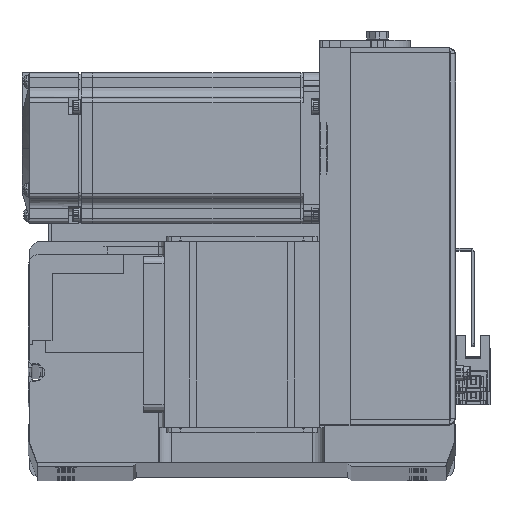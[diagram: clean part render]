
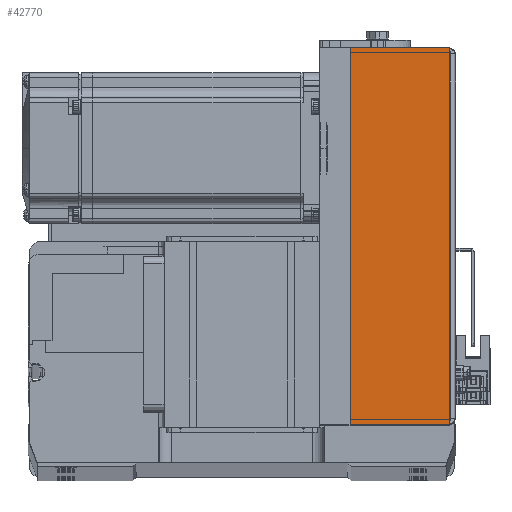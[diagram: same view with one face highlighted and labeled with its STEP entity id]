
A CAD part, top view. The second image highlights one B-rep face of the part: STEP entity #42770.
In plain terms, the highlighted planar face has unit normal (0, 0, 1) as drawn and (0, -1, 0) by its records, which use the part's own axes.
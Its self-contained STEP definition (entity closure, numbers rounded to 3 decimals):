
#5147 = VECTOR ( 'NONE', #34493, 1000. ) ;
#5311 = VERTEX_POINT ( 'NONE', #36800 ) ;
#5351 = LINE ( 'NONE', #38055, #29271 ) ;
#6044 = ORIENTED_EDGE ( 'NONE', *, *, #26608, .T. ) ;
#6932 = LINE ( 'NONE', #9546, #30088 ) ;
#7114 = CARTESIAN_POINT ( 'NONE',  ( 75., -36., 12. ) ) ;
#9546 = CARTESIAN_POINT ( 'NONE',  ( -75., -36., 51.5 ) ) ;
#9548 = AXIS2_PLACEMENT_3D ( 'NONE', #25416, #38732, #23037 ) ;
#11923 = DIRECTION ( 'NONE',  ( 0., 0., -1. ) ) ;
#12388 = PLANE ( 'NONE',  #9548 ) ;
#13084 = CARTESIAN_POINT ( 'NONE',  ( -75., -36., 51.5 ) ) ;
#16987 = DIRECTION ( 'NONE',  ( 1., 0., 0. ) ) ;
#21186 = CARTESIAN_POINT ( 'NONE',  ( 0., -36., 12. ) ) ;
#23037 = DIRECTION ( 'NONE',  ( 0., 0., -1. ) ) ;
#23751 = VERTEX_POINT ( 'NONE', #7114 ) ;
#24448 = VERTEX_POINT ( 'NONE', #31870 ) ;
#24972 = ORIENTED_EDGE ( 'NONE', *, *, #28817, .T. ) ;
#25416 = CARTESIAN_POINT ( 'NONE',  ( 0., -36., 52. ) ) ;
#25809 = EDGE_CURVE ( 'NONE', #24448, #23751, #5351, .T. ) ;
#26608 = EDGE_CURVE ( 'NONE', #41284, #5311, #6932, .T. ) ;
#28817 = EDGE_CURVE ( 'NONE', #5311, #23751, #37757, .T. ) ;
#29271 = VECTOR ( 'NONE', #11923, 1000. ) ;
#30088 = VECTOR ( 'NONE', #40254, 1000. ) ;
#31870 = CARTESIAN_POINT ( 'NONE',  ( 75., -36., 51.5 ) ) ;
#33785 = ORIENTED_EDGE ( 'NONE', *, *, #42594, .F. ) ;
#34493 = DIRECTION ( 'NONE',  ( 1., 0., 0. ) ) ;
#35308 = VECTOR ( 'NONE', #16987, 1000. ) ;
#35439 = EDGE_LOOP ( 'NONE', ( #33785, #6044, #24972, #37509 ) ) ;
#36800 = CARTESIAN_POINT ( 'NONE',  ( -75., -36., 12. ) ) ;
#37019 = LINE ( 'NONE', #40276, #35308 ) ;
#37509 = ORIENTED_EDGE ( 'NONE', *, *, #25809, .F. ) ;
#37757 = LINE ( 'NONE', #21186, #5147 ) ;
#38055 = CARTESIAN_POINT ( 'NONE',  ( 75., -36., 51.5 ) ) ;
#38732 = DIRECTION ( 'NONE',  ( 0., 1., 0. ) ) ;
#40254 = DIRECTION ( 'NONE',  ( 0., 0., -1. ) ) ;
#40276 = CARTESIAN_POINT ( 'NONE',  ( 75., -36., 51.5 ) ) ;
#41284 = VERTEX_POINT ( 'NONE', #13084 ) ;
#42208 = FACE_OUTER_BOUND ( 'NONE', #35439, .T. ) ;
#42594 = EDGE_CURVE ( 'NONE', #41284, #24448, #37019, .T. ) ;
#42770 = ADVANCED_FACE ( 'NONE', ( #42208 ), #12388, .F. ) ;
